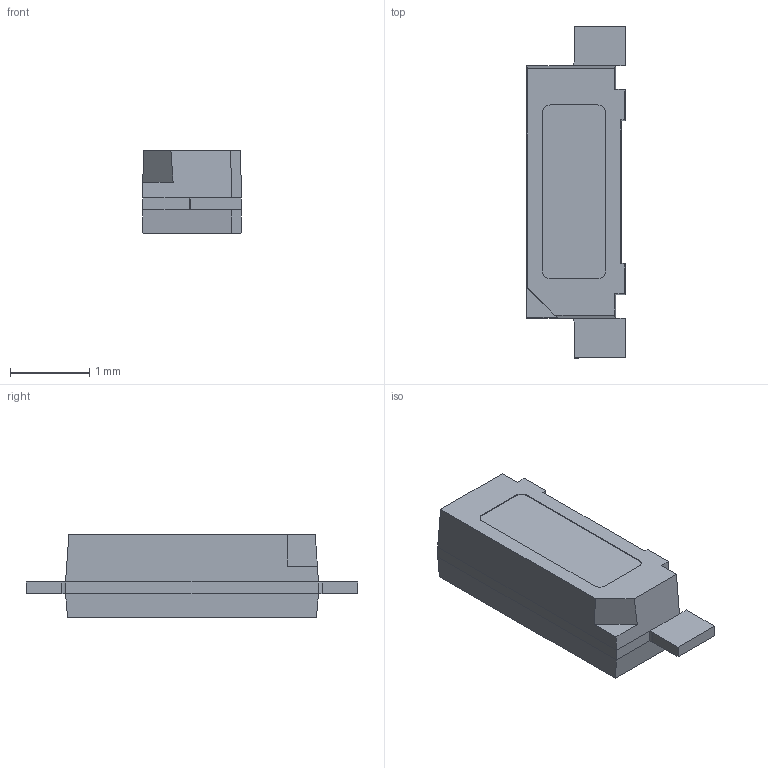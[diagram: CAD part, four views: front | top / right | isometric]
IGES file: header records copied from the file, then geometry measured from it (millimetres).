
Start section: 3D InterOp IGES (Version 20 0 3), Spatial Corp. Copyright (c) 1999-2007.
Global section: file name: DSA-MHS_060921.igs; native system: Spatial Corp.; preprocessor: 3D InterOp ACIS/IGES; author: Noname; organization: Noname; date: 20210906.112407; units: millimetre
Bounding box: 1.25 x 4.2 x 1.05 mm (x, y, z)
Surface area: 18.4 mm2 (no closed solid volume)
Topology: 0 solids, 0 shells, 67 faces, 320 edges, 320 vertices
Faces by surface type: extrusion 57, revolution 10
